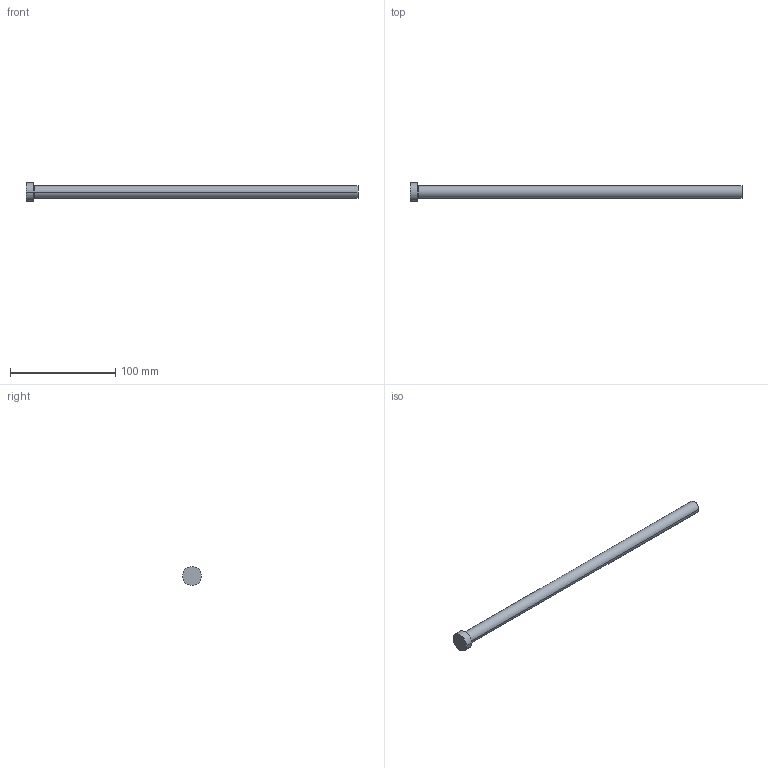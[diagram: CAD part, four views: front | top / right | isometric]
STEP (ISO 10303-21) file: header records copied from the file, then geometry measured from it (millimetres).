
FILE_DESCRIPTION (( 'STEP AP214' ), '1' );
FILE_NAME ('A-12x315.STEP', '2020-05-29T16:13:48', ( 'August' ), ( '' ), 'SwSTEP 2.0', 'SolidWorks 2018', '' );
FILE_SCHEMA (( 'AUTOMOTIVE_DESIGN' ));
Length unit declared in the file: millimetre
Products named in the file (1): A-12x315
Bounding box: 315 x 18 x 18 mm (x, y, z)
Volume: 36620.6 mm3; surface area: 12503.4 mm2
Topology: 1 solids, 1 shells, 9 faces, 16 edges, 10 vertices
Faces by surface type: cylinder 4, plane 3, torus 2
Entity records: 260 total; most frequent: DIRECTION 48, CARTESIAN_POINT 36, ORIENTED_EDGE 32, AXIS2_PLACEMENT_3D 22, EDGE_CURVE 16, CIRCLE 12, EDGE_LOOP 10, VERTEX_POINT 10
